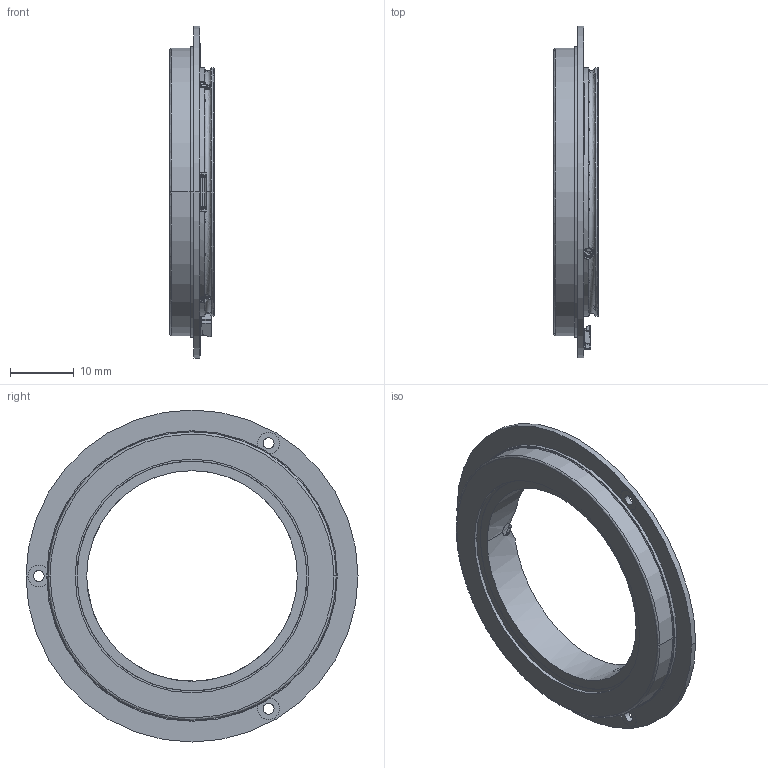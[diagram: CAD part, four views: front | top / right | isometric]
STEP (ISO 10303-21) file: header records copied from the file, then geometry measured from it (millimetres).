
FILE_DESCRIPTION (( 'STEP AP214' ), '1' );
FILE_NAME ('MBS-33-52¸üÐÂ.STEP', '2024-07-16T02:38:08', ( '' ), ( '' ), 'SwSTEP 2.0', 'SolidWorks 2016', '' );
FILE_SCHEMA (( 'AUTOMOTIVE_DESIGN' ));
Length unit declared in the file: millimetre
Products named in the file (1): MBS-33-52載陔
Bounding box: 7.01 x 52 x 52 mm (x, y, z)
Surface area: 7452.7 mm2 (no closed solid volume)
Topology: 0 solids, 13 shells, 785 faces, 2079 edges, 1350 vertices
Faces by surface type: plane 544, bspline 158, cylinder 73, cone 10
Entity records: 80487 total; most frequent: CARTESIAN_POINT 58366, ORIENTED_EDGE 4095, DIRECTION 2941, EDGE_CURVE 2054, LINE 1419, VECTOR 1419, VERTEX_POINT 1343, EDGE_LOOP 863
